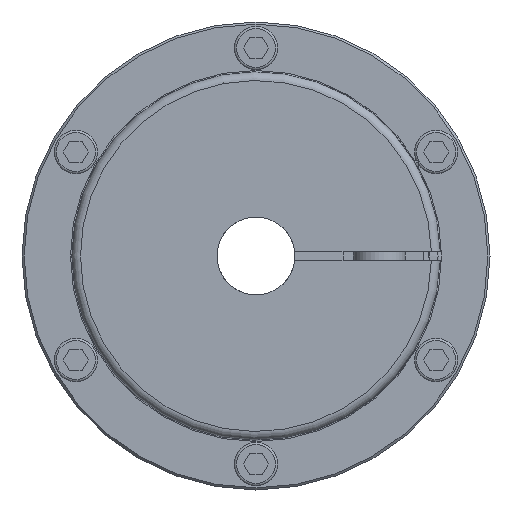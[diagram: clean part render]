
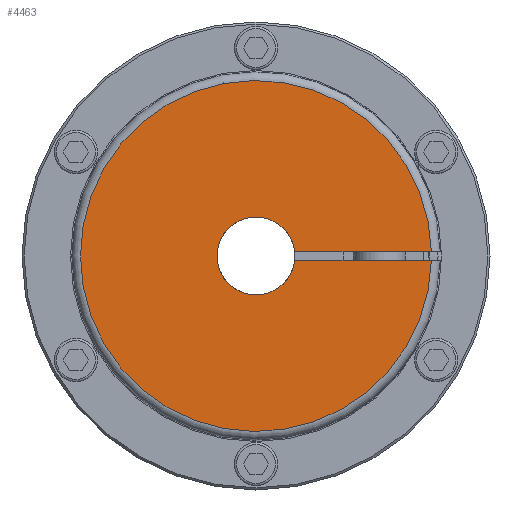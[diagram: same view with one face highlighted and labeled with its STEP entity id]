
A CAD part, left-side view. The second image highlights one B-rep face of the part: STEP entity #4463.
In plain terms, the highlighted planar face has unit normal (-1, 0, 0).
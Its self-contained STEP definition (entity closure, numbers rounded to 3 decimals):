
#184=PLANE('',#4835);
#395=LINE('',#7392,#673);
#396=LINE('',#7393,#674);
#673=VECTOR('',#5570,1000.);
#674=VECTOR('',#5571,1000.);
#1553=ORIENTED_EDGE('',*,*,#2721,.F.);
#1554=ORIENTED_EDGE('',*,*,#2720,.F.);
#1555=ORIENTED_EDGE('',*,*,#2722,.F.);
#1556=ORIENTED_EDGE('',*,*,#2427,.T.);
#2427=EDGE_CURVE('',#3076,#3075,#3478,.T.);
#2720=EDGE_CURVE('',#3296,#3295,#3539,.T.);
#2721=EDGE_CURVE('',#3295,#3075,#395,.T.);
#2722=EDGE_CURVE('',#3076,#3296,#396,.T.);
#3075=VERTEX_POINT('',#6411);
#3076=VERTEX_POINT('',#6413);
#3295=VERTEX_POINT('',#7387);
#3296=VERTEX_POINT('',#7389);
#3478=CIRCLE('',#4699,40.5);
#3539=CIRCLE('',#4834,9.);
#3747=EDGE_LOOP('',(#1553,#1554,#1555,#1556));
#4108=FACE_BOUND('',#3747,.T.);
#4463=ADVANCED_FACE('',(#4108),#184,.T.);
#4699=AXIS2_PLACEMENT_3D('',#6412,#5150,#5151);
#4834=AXIS2_PLACEMENT_3D('',#7390,#5566,#5567);
#4835=AXIS2_PLACEMENT_3D('',#7391,#5568,#5569);
#5150=DIRECTION('',(-1.,0.,0.));
#5151=DIRECTION('',(0.,0.,1.));
#5566=DIRECTION('',(-1.,0.,0.));
#5567=DIRECTION('',(0.,0.,1.));
#5568=DIRECTION('',(-1.,0.,0.));
#5569=DIRECTION('',(0.,0.,1.));
#5570=DIRECTION('',(0.,-1.,0.));
#5571=DIRECTION('',(0.,1.,0.));
#6411=CARTESIAN_POINT('',(0.,-40.488,-1.));
#6412=CARTESIAN_POINT('',(0.,0.,0.));
#6413=CARTESIAN_POINT('',(0.,-40.488,1.));
#7387=CARTESIAN_POINT('',(0.,-8.944,-1.));
#7389=CARTESIAN_POINT('',(0.,-8.944,1.));
#7390=CARTESIAN_POINT('',(0.,0.,0.));
#7391=CARTESIAN_POINT('',(0.,0.,9.));
#7392=CARTESIAN_POINT('',(0.,1.233,-1.));
#7393=CARTESIAN_POINT('',(0.,-56.825,1.));
